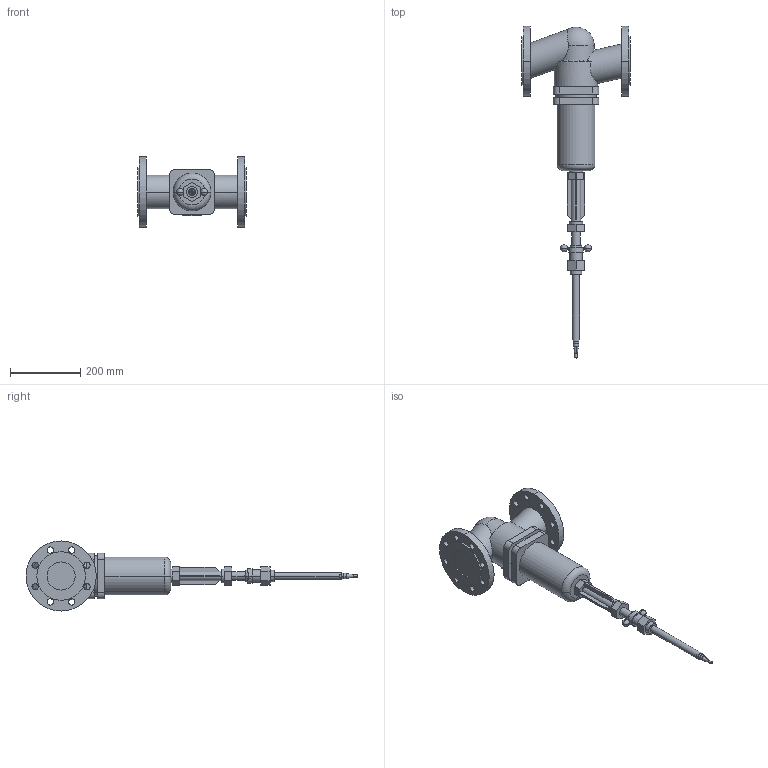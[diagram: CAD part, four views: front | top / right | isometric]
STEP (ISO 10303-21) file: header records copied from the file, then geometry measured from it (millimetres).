
FILE_DESCRIPTION(('CoCreate Modeling STEP Export'),'2;1');
FILE_NAME('c000004782.stp','2011-09-22T11:17:08',(''),(''),'CoCreate Modeling STEP processor for AP214 (Solid Model)','CoCreate Modeling 17.0 01-Apr-2010 (C) Parametric Technology GmbH','');
FILE_SCHEMA(('AUTOMOTIVE_DESIGN { 1 0 10303 214 1 1 1 1 }'));
Length unit declared in the file: millimetre
Products named in the file (1): 1
Bounding box: 310 x 946.17 x 200 mm (x, y, z)
Volume: 6924466.9 mm3; surface area: 434765.8 mm2
Topology: 1 solids, 1 shells, 220 faces, 557 edges, 356 vertices
Faces by surface type: cylinder 106, plane 92, sphere 10, cone 10, torus 2
Entity records: 8234 total; most frequent: CARTESIAN_POINT 1576, ORIENTED_EDGE 1094, DIRECTION 903, EDGE_CURVE 547, VERTEX_POINT 356, AXIS2_PLACEMENT_3D 317, EDGE_LOOP 279, VECTOR 269
